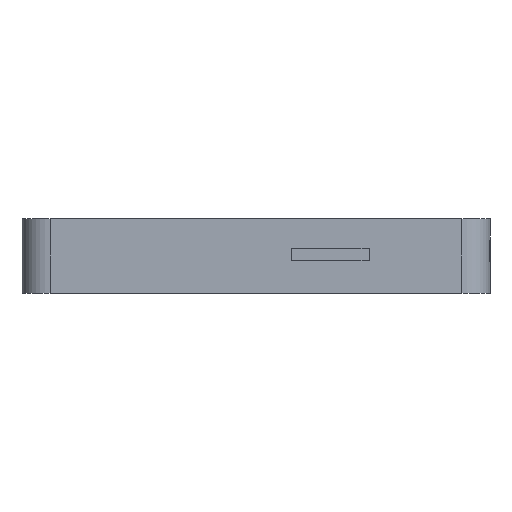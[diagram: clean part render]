
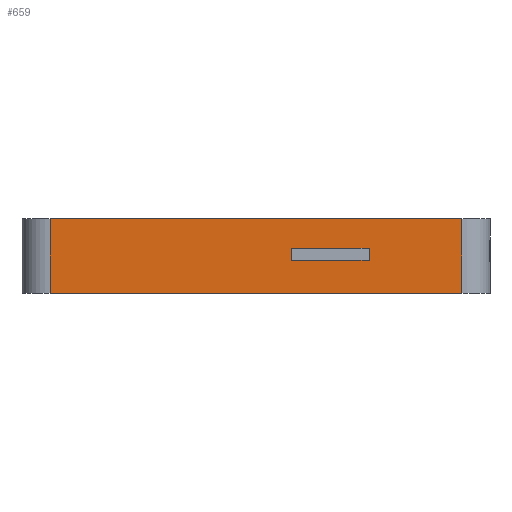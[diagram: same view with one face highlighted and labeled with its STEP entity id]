
A CAD part, left-side view. The second image highlights one B-rep face of the part: STEP entity #659.
In plain terms, the highlighted planar face has unit normal (-1, 0, 0).
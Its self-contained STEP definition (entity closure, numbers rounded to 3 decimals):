
#22 = VERTEX_POINT('',#23);
#23 = CARTESIAN_POINT('',(-23.,-44.,16.));
#33 = PLANE('',#34);
#34 = AXIS2_PLACEMENT_3D('',#35,#36,#37);
#35 = CARTESIAN_POINT('',(-17.,-50.,16.));
#36 = DIRECTION('',(0.,0.,1.));
#37 = DIRECTION('',(1.,0.,-0.));
#45 = CYLINDRICAL_SURFACE('',#46,6.);
#46 = AXIS2_PLACEMENT_3D('',#47,#48,#49);
#47 = CARTESIAN_POINT('',(-17.,-44.,0.));
#48 = DIRECTION('',(0.,0.,1.));
#49 = DIRECTION('',(1.,0.,-0.));
#200 = VERTEX_POINT('',#201);
#201 = CARTESIAN_POINT('',(-23.,44.,16.));
#216 = CYLINDRICAL_SURFACE('',#217,6.);
#217 = AXIS2_PLACEMENT_3D('',#218,#219,#220);
#218 = CARTESIAN_POINT('',(-17.,44.,0.));
#219 = DIRECTION('',(0.,0.,1.));
#220 = DIRECTION('',(1.,0.,-0.));
#228 = EDGE_CURVE('',#22,#200,#229,.T.);
#229 = SURFACE_CURVE('',#230,(#234,#241),.PCURVE_S1.);
#230 = LINE('',#231,#232);
#231 = CARTESIAN_POINT('',(-23.,-44.,16.));
#232 = VECTOR('',#233,1.);
#233 = DIRECTION('',(-0.,1.,0.));
#234 = PCURVE('',#33,#235);
#235 = DEFINITIONAL_REPRESENTATION('',(#236),#240);
#236 = LINE('',#237,#238);
#237 = CARTESIAN_POINT('',(-6.,6.));
#238 = VECTOR('',#239,1.);
#239 = DIRECTION('',(0.,1.));
#240 = ( GEOMETRIC_REPRESENTATION_CONTEXT(2) 
PARAMETRIC_REPRESENTATION_CONTEXT() REPRESENTATION_CONTEXT('2D SPACE',''
  ) );
#241 = PCURVE('',#242,#247);
#242 = PLANE('',#243);
#243 = AXIS2_PLACEMENT_3D('',#244,#245,#246);
#244 = CARTESIAN_POINT('',(-23.,-44.,0.));
#245 = DIRECTION('',(1.,0.,-0.));
#246 = DIRECTION('',(0.,0.,1.));
#247 = DEFINITIONAL_REPRESENTATION('',(#248),#252);
#248 = LINE('',#249,#250);
#249 = CARTESIAN_POINT('',(16.,0.));
#250 = VECTOR('',#251,1.);
#251 = DIRECTION('',(0.,-1.));
#252 = ( GEOMETRIC_REPRESENTATION_CONTEXT(2) 
PARAMETRIC_REPRESENTATION_CONTEXT() REPRESENTATION_CONTEXT('2D SPACE',''
  ) );
#480 = EDGE_CURVE('',#481,#22,#483,.T.);
#481 = VERTEX_POINT('',#482);
#482 = CARTESIAN_POINT('',(-23.,-44.,0.));
#483 = SURFACE_CURVE('',#484,(#488,#495),.PCURVE_S1.);
#484 = LINE('',#485,#486);
#485 = CARTESIAN_POINT('',(-23.,-44.,0.));
#486 = VECTOR('',#487,1.);
#487 = DIRECTION('',(0.,0.,1.));
#488 = PCURVE('',#45,#489);
#489 = DEFINITIONAL_REPRESENTATION('',(#490),#494);
#490 = LINE('',#491,#492);
#491 = CARTESIAN_POINT('',(3.142,0.));
#492 = VECTOR('',#493,1.);
#493 = DIRECTION('',(0.,1.));
#494 = ( GEOMETRIC_REPRESENTATION_CONTEXT(2) 
PARAMETRIC_REPRESENTATION_CONTEXT() REPRESENTATION_CONTEXT('2D SPACE',''
  ) );
#495 = PCURVE('',#242,#496);
#496 = DEFINITIONAL_REPRESENTATION('',(#497),#501);
#497 = LINE('',#498,#499);
#498 = CARTESIAN_POINT('',(0.,0.));
#499 = VECTOR('',#500,1.);
#500 = DIRECTION('',(1.,0.));
#501 = ( GEOMETRIC_REPRESENTATION_CONTEXT(2) 
PARAMETRIC_REPRESENTATION_CONTEXT() REPRESENTATION_CONTEXT('2D SPACE',''
  ) );
#520 = PLANE('',#521);
#521 = AXIS2_PLACEMENT_3D('',#522,#523,#524);
#522 = CARTESIAN_POINT('',(-17.,-44.,0.));
#523 = DIRECTION('',(0.,0.,1.));
#524 = DIRECTION('',(1.,0.,-0.));
#659 = ADVANCED_FACE('',(#660,#708),#242,.F.);
#660 = FACE_BOUND('',#661,.F.);
#661 = EDGE_LOOP('',(#662,#663,#686,#707));
#662 = ORIENTED_EDGE('',*,*,#480,.F.);
#663 = ORIENTED_EDGE('',*,*,#664,.T.);
#664 = EDGE_CURVE('',#481,#665,#667,.T.);
#665 = VERTEX_POINT('',#666);
#666 = CARTESIAN_POINT('',(-23.,44.,0.));
#667 = SURFACE_CURVE('',#668,(#672,#679),.PCURVE_S1.);
#668 = LINE('',#669,#670);
#669 = CARTESIAN_POINT('',(-23.,-44.,0.));
#670 = VECTOR('',#671,1.);
#671 = DIRECTION('',(-0.,1.,0.));
#672 = PCURVE('',#242,#673);
#673 = DEFINITIONAL_REPRESENTATION('',(#674),#678);
#674 = LINE('',#675,#676);
#675 = CARTESIAN_POINT('',(0.,0.));
#676 = VECTOR('',#677,1.);
#677 = DIRECTION('',(0.,-1.));
#678 = ( GEOMETRIC_REPRESENTATION_CONTEXT(2) 
PARAMETRIC_REPRESENTATION_CONTEXT() REPRESENTATION_CONTEXT('2D SPACE',''
  ) );
#679 = PCURVE('',#520,#680);
#680 = DEFINITIONAL_REPRESENTATION('',(#681),#685);
#681 = LINE('',#682,#683);
#682 = CARTESIAN_POINT('',(-6.,0.));
#683 = VECTOR('',#684,1.);
#684 = DIRECTION('',(0.,1.));
#685 = ( GEOMETRIC_REPRESENTATION_CONTEXT(2) 
PARAMETRIC_REPRESENTATION_CONTEXT() REPRESENTATION_CONTEXT('2D SPACE',''
  ) );
#686 = ORIENTED_EDGE('',*,*,#687,.T.);
#687 = EDGE_CURVE('',#665,#200,#688,.T.);
#688 = SURFACE_CURVE('',#689,(#693,#700),.PCURVE_S1.);
#689 = LINE('',#690,#691);
#690 = CARTESIAN_POINT('',(-23.,44.,0.));
#691 = VECTOR('',#692,1.);
#692 = DIRECTION('',(0.,0.,1.));
#693 = PCURVE('',#242,#694);
#694 = DEFINITIONAL_REPRESENTATION('',(#695),#699);
#695 = LINE('',#696,#697);
#696 = CARTESIAN_POINT('',(0.,-88.));
#697 = VECTOR('',#698,1.);
#698 = DIRECTION('',(1.,0.));
#699 = ( GEOMETRIC_REPRESENTATION_CONTEXT(2) 
PARAMETRIC_REPRESENTATION_CONTEXT() REPRESENTATION_CONTEXT('2D SPACE',''
  ) );
#700 = PCURVE('',#216,#701);
#701 = DEFINITIONAL_REPRESENTATION('',(#702),#706);
#702 = LINE('',#703,#704);
#703 = CARTESIAN_POINT('',(3.142,0.));
#704 = VECTOR('',#705,1.);
#705 = DIRECTION('',(0.,1.));
#706 = ( GEOMETRIC_REPRESENTATION_CONTEXT(2) 
PARAMETRIC_REPRESENTATION_CONTEXT() REPRESENTATION_CONTEXT('2D SPACE',''
  ) );
#707 = ORIENTED_EDGE('',*,*,#228,.F.);
#708 = FACE_BOUND('',#709,.F.);
#709 = EDGE_LOOP('',(#710,#738,#764,#790));
#710 = ORIENTED_EDGE('',*,*,#711,.T.);
#711 = EDGE_CURVE('',#712,#714,#716,.T.);
#712 = VERTEX_POINT('',#713);
#713 = CARTESIAN_POINT('',(-23.,-7.65,7.1));
#714 = VERTEX_POINT('',#715);
#715 = CARTESIAN_POINT('',(-23.,-24.15,7.1));
#716 = SURFACE_CURVE('',#717,(#721,#727),.PCURVE_S1.);
#717 = LINE('',#718,#719);
#718 = CARTESIAN_POINT('',(-23.,-34.075,7.1));
#719 = VECTOR('',#720,1.);
#720 = DIRECTION('',(0.,-1.,0.));
#721 = PCURVE('',#242,#722);
#722 = DEFINITIONAL_REPRESENTATION('',(#723),#726);
#723 = B_SPLINE_CURVE_WITH_KNOTS('',1,(#724,#725),.UNSPECIFIED.,.F.,.F.,
  (2,2),(-26.425,-9.925),.PIECEWISE_BEZIER_KNOTS.);
#724 = CARTESIAN_POINT('',(7.1,-36.35));
#725 = CARTESIAN_POINT('',(7.1,-19.85));
#726 = ( GEOMETRIC_REPRESENTATION_CONTEXT(2) 
PARAMETRIC_REPRESENTATION_CONTEXT() REPRESENTATION_CONTEXT('2D SPACE',''
  ) );
#727 = PCURVE('',#728,#733);
#728 = PLANE('',#729);
#729 = AXIS2_PLACEMENT_3D('',#730,#731,#732);
#730 = CARTESIAN_POINT('',(-25.,-24.15,7.1));
#731 = DIRECTION('',(0.,0.,1.));
#732 = DIRECTION('',(1.,0.,-0.));
#733 = DEFINITIONAL_REPRESENTATION('',(#734),#737);
#734 = B_SPLINE_CURVE_WITH_KNOTS('',1,(#735,#736),.UNSPECIFIED.,.F.,.F.,
  (2,2),(-26.425,-9.925),.PIECEWISE_BEZIER_KNOTS.);
#735 = CARTESIAN_POINT('',(2.,16.5));
#736 = CARTESIAN_POINT('',(2.,0.));
#737 = ( GEOMETRIC_REPRESENTATION_CONTEXT(2) 
PARAMETRIC_REPRESENTATION_CONTEXT() REPRESENTATION_CONTEXT('2D SPACE',''
  ) );
#738 = ORIENTED_EDGE('',*,*,#739,.T.);
#739 = EDGE_CURVE('',#714,#740,#742,.T.);
#740 = VERTEX_POINT('',#741);
#741 = CARTESIAN_POINT('',(-23.,-24.15,9.7));
#742 = SURFACE_CURVE('',#743,(#747,#753),.PCURVE_S1.);
#743 = LINE('',#744,#745);
#744 = CARTESIAN_POINT('',(-23.,-24.15,3.55));
#745 = VECTOR('',#746,1.);
#746 = DIRECTION('',(0.,0.,1.));
#747 = PCURVE('',#242,#748);
#748 = DEFINITIONAL_REPRESENTATION('',(#749),#752);
#749 = B_SPLINE_CURVE_WITH_KNOTS('',1,(#750,#751),.UNSPECIFIED.,.F.,.F.,
  (2,2),(3.55,6.15),.PIECEWISE_BEZIER_KNOTS.);
#750 = CARTESIAN_POINT('',(7.1,-19.85));
#751 = CARTESIAN_POINT('',(9.7,-19.85));
#752 = ( GEOMETRIC_REPRESENTATION_CONTEXT(2) 
PARAMETRIC_REPRESENTATION_CONTEXT() REPRESENTATION_CONTEXT('2D SPACE',''
  ) );
#753 = PCURVE('',#754,#759);
#754 = PLANE('',#755);
#755 = AXIS2_PLACEMENT_3D('',#756,#757,#758);
#756 = CARTESIAN_POINT('',(-25.,-24.15,7.1));
#757 = DIRECTION('',(-0.,1.,0.));
#758 = DIRECTION('',(0.,0.,1.));
#759 = DEFINITIONAL_REPRESENTATION('',(#760),#763);
#760 = B_SPLINE_CURVE_WITH_KNOTS('',1,(#761,#762),.UNSPECIFIED.,.F.,.F.,
  (2,2),(3.55,6.15),.PIECEWISE_BEZIER_KNOTS.);
#761 = CARTESIAN_POINT('',(0.,2.));
#762 = CARTESIAN_POINT('',(2.6,2.));
#763 = ( GEOMETRIC_REPRESENTATION_CONTEXT(2) 
PARAMETRIC_REPRESENTATION_CONTEXT() REPRESENTATION_CONTEXT('2D SPACE',''
  ) );
#764 = ORIENTED_EDGE('',*,*,#765,.F.);
#765 = EDGE_CURVE('',#766,#740,#768,.T.);
#766 = VERTEX_POINT('',#767);
#767 = CARTESIAN_POINT('',(-23.,-7.65,9.7));
#768 = SURFACE_CURVE('',#769,(#773,#779),.PCURVE_S1.);
#769 = LINE('',#770,#771);
#770 = CARTESIAN_POINT('',(-23.,-34.075,9.7));
#771 = VECTOR('',#772,1.);
#772 = DIRECTION('',(0.,-1.,0.));
#773 = PCURVE('',#242,#774);
#774 = DEFINITIONAL_REPRESENTATION('',(#775),#778);
#775 = B_SPLINE_CURVE_WITH_KNOTS('',1,(#776,#777),.UNSPECIFIED.,.F.,.F.,
  (2,2),(-26.425,-9.925),.PIECEWISE_BEZIER_KNOTS.);
#776 = CARTESIAN_POINT('',(9.7,-36.35));
#777 = CARTESIAN_POINT('',(9.7,-19.85));
#778 = ( GEOMETRIC_REPRESENTATION_CONTEXT(2) 
PARAMETRIC_REPRESENTATION_CONTEXT() REPRESENTATION_CONTEXT('2D SPACE',''
  ) );
#779 = PCURVE('',#780,#785);
#780 = PLANE('',#781);
#781 = AXIS2_PLACEMENT_3D('',#782,#783,#784);
#782 = CARTESIAN_POINT('',(-25.,-24.15,9.7));
#783 = DIRECTION('',(0.,0.,1.));
#784 = DIRECTION('',(1.,0.,-0.));
#785 = DEFINITIONAL_REPRESENTATION('',(#786),#789);
#786 = B_SPLINE_CURVE_WITH_KNOTS('',1,(#787,#788),.UNSPECIFIED.,.F.,.F.,
  (2,2),(-26.425,-9.925),.PIECEWISE_BEZIER_KNOTS.);
#787 = CARTESIAN_POINT('',(2.,16.5));
#788 = CARTESIAN_POINT('',(2.,0.));
#789 = ( GEOMETRIC_REPRESENTATION_CONTEXT(2) 
PARAMETRIC_REPRESENTATION_CONTEXT() REPRESENTATION_CONTEXT('2D SPACE',''
  ) );
#790 = ORIENTED_EDGE('',*,*,#791,.F.);
#791 = EDGE_CURVE('',#712,#766,#792,.T.);
#792 = SURFACE_CURVE('',#793,(#797,#803),.PCURVE_S1.);
#793 = LINE('',#794,#795);
#794 = CARTESIAN_POINT('',(-23.,-7.65,3.55));
#795 = VECTOR('',#796,1.);
#796 = DIRECTION('',(0.,0.,1.));
#797 = PCURVE('',#242,#798);
#798 = DEFINITIONAL_REPRESENTATION('',(#799),#802);
#799 = B_SPLINE_CURVE_WITH_KNOTS('',1,(#800,#801),.UNSPECIFIED.,.F.,.F.,
  (2,2),(3.55,6.15),.PIECEWISE_BEZIER_KNOTS.);
#800 = CARTESIAN_POINT('',(7.1,-36.35));
#801 = CARTESIAN_POINT('',(9.7,-36.35));
#802 = ( GEOMETRIC_REPRESENTATION_CONTEXT(2) 
PARAMETRIC_REPRESENTATION_CONTEXT() REPRESENTATION_CONTEXT('2D SPACE',''
  ) );
#803 = PCURVE('',#804,#809);
#804 = PLANE('',#805);
#805 = AXIS2_PLACEMENT_3D('',#806,#807,#808);
#806 = CARTESIAN_POINT('',(-25.,-7.65,7.1));
#807 = DIRECTION('',(-0.,1.,0.));
#808 = DIRECTION('',(0.,0.,1.));
#809 = DEFINITIONAL_REPRESENTATION('',(#810),#813);
#810 = B_SPLINE_CURVE_WITH_KNOTS('',1,(#811,#812),.UNSPECIFIED.,.F.,.F.,
  (2,2),(3.55,6.15),.PIECEWISE_BEZIER_KNOTS.);
#811 = CARTESIAN_POINT('',(0.,2.));
#812 = CARTESIAN_POINT('',(2.6,2.));
#813 = ( GEOMETRIC_REPRESENTATION_CONTEXT(2) 
PARAMETRIC_REPRESENTATION_CONTEXT() REPRESENTATION_CONTEXT('2D SPACE',''
  ) );
